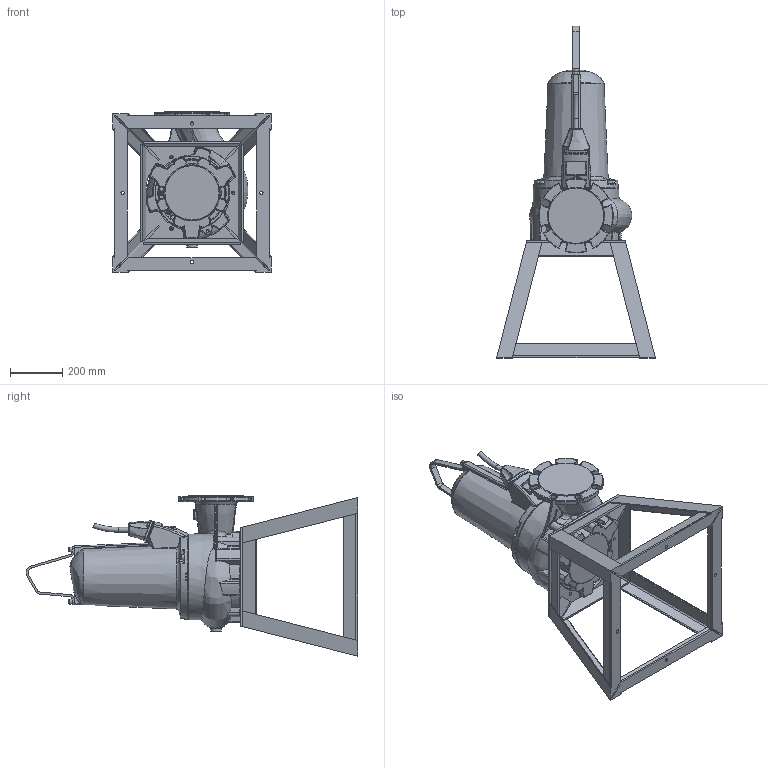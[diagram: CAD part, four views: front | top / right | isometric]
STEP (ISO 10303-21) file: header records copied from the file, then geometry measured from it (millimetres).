
FILE_DESCRIPTION (( 'STEP AP203' ), '1' );
FILE_NAME ('XFP150E-CB1_PE2B_Dry_Vertical-.step', '2024-01-16T15:43:02', ( '' ), ( '' ), 'SwSTEP 2.0', 'SolidWorks 2017', '' );
FILE_SCHEMA (( 'CONFIG_CONTROL_DESIGN' ));
Products named in the file (2): XFP150E-CB1_PE2B_Dry_Vertical-
Bounding box: 606.48 x 1268.93 x 613.24 mm (x, y, z)
Volume: 49568105.9 mm3; surface area: 2267705.7 mm2
Topology: 12 solids, 16 shells, 2173 faces, 5383 edges, 3224 vertices
Faces by surface type: bspline 804, plane 599, cylinder 392, torus 213, cone 107, sphere 58
Full cylindrical faces by diameter (mm): 6 x1, 6.8 x2, 8 x4, 9 x2, 10.2 x9, 12 x14, 12.5 x2, 13 x12, 18 x5, 18.7 x1, 62 x1, 212 x1, 280 x1
Entity records: 124487 total; most frequent: CARTESIAN_POINT 80204, ORIENTED_EDGE 10302, DIRECTION 7353, EDGE_CURVE 5151, VERTEX_POINT 3180, AXIS2_PLACEMENT_3D 2796, EDGE_LOOP 2383, FACE_OUTER_BOUND 2256
